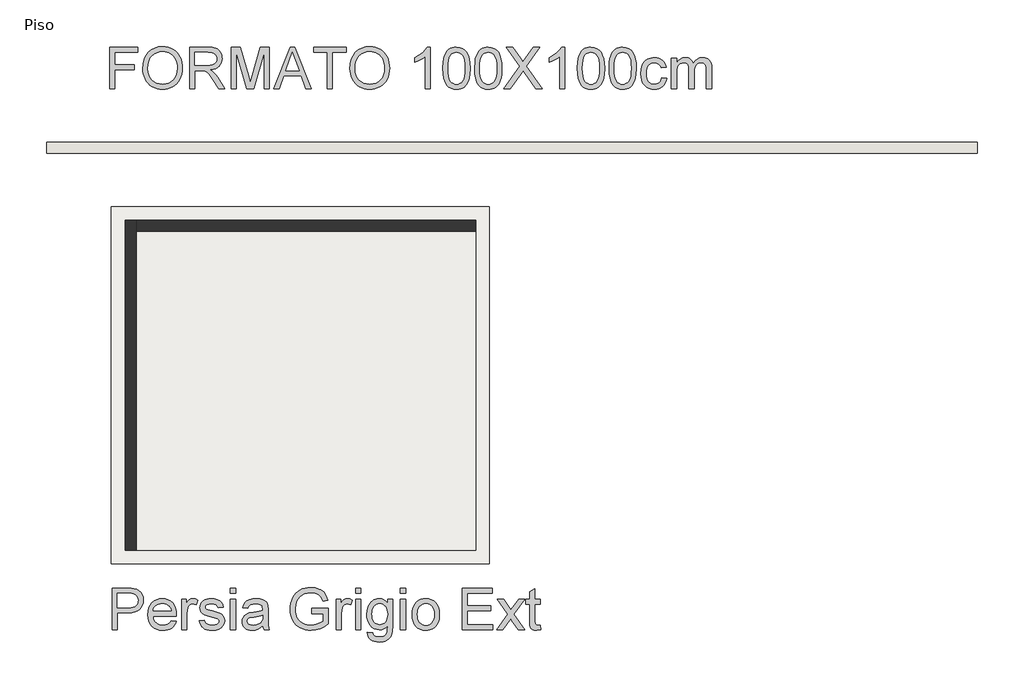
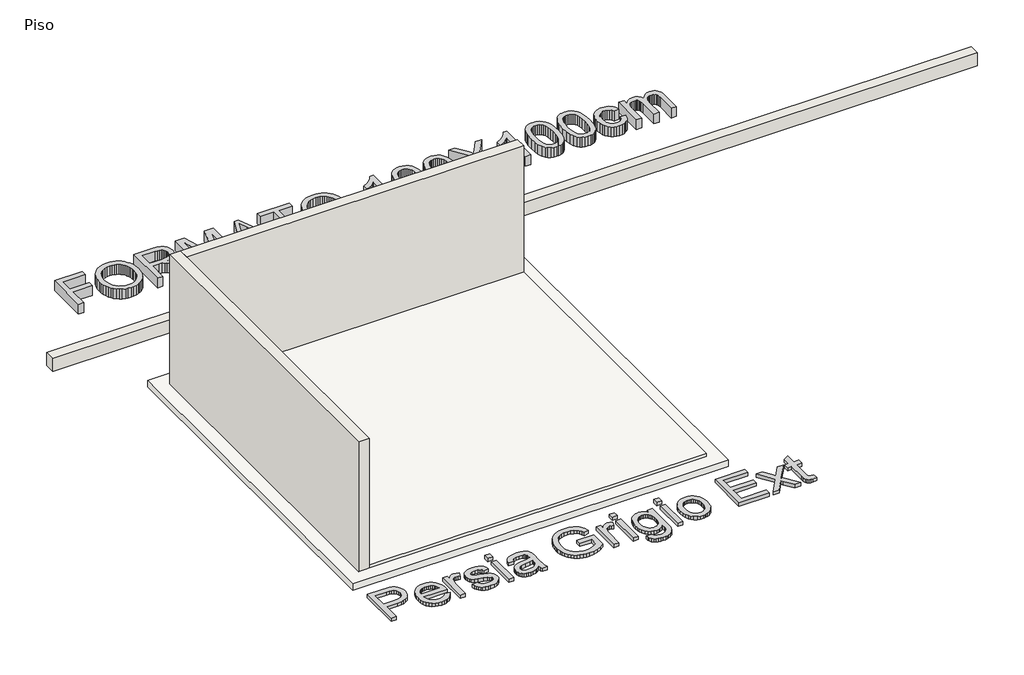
# One storey: 3 walls, 2 proxies, 2 slabs.
"""IFC4 building model written with IfcOpenShell, lengths in millimetres."""

from ifc_helpers import new_model, si_unit, frame, origin, origin_with_axes, place, context, project, spatial, polyline, outline, extrude, faceted_brep, element, save

model = new_model("IFC4")

# Units and contexts
model_context = context("Model", 3, world=origin())
ifc_project = project(units=[si_unit("LENGTHUNIT", "METRE", prefix="MILLI")], contexts=[model_context])

# Site, building, storey
site = spatial("IfcSite", under=ifc_project)
building = spatial("IfcBuilding", under=site)
storey = spatial("IfcBuildingStorey", under=building, Name="Piso", Elevation=0.0)

# Proxies
placement = place(None, origin())
element("IfcBuildingElementProxy", 1, Name="600mm Arial", ObjectType="600mm Arial", at=placement, inside=storey, context=model_context, shape_type="SweptSolid", body=[
    extrude(outline(polyline([(92602.0859381, 2702.6380465), (92602.0859381, 3305.3759074), (93007.0504384, 3305.3759074), (93007.0504384, 3230.0336748), (92677.4281707, 3230.0336748), (92677.4281707, 3051.0958724), (92959.961543, 3051.0958724), (92959.961543, 2975.7536397), (92677.4281707, 2975.7536397), (92677.4281707, 2702.6380465), (92602.0859381, 2702.6380465)])), origin_with_axes(), (0.0, 0.0, 1.0), 150.0),
    extrude(outline(polyline([(93082.392671, 2996.0607259), (93087.4142602, 3066.7584483), (93102.4790279, 3129.3443727), (93127.5869741, 3183.8184992), (93143.9071391, 3208.0136381), (93162.7380987, 3230.1808276), (93205.8262774, 3267.1989534), (93254.7453857, 3293.6404718), (93309.4954237, 3309.5053828), (93370.0763912, 3314.7936865), (93410.6261841, 3312.310483), (93449.134232, 3304.8608726), (93485.6005348, 3292.4448553), (93520.0250925, 3275.062431), (93551.4422148, 3253.2378317), (93578.8862117, 3227.495289), (93602.357083, 3197.8348032), (93621.8548287, 3164.2563741), (93637.1771138, 3127.5233569), (93648.1216032, 3088.3991067), (93654.6882968, 3046.8836235), (93656.8771947, 3002.9769074), (93654.5733337, 2958.4907771), (93647.6617507, 2916.4142739), (93636.1424457, 2876.7473978), (93620.0154187, 2839.4901487), (93599.6623474, 2805.6266111), (93575.4649091, 2776.1408692), (93547.423104, 2751.032923), (93515.5369321, 2730.3027726), (93481.0617906, 2714.0791766), (93445.2530769, 2702.4908937), (93408.110791, 2695.537924), (93369.6349328, 2693.2202674), (93328.3769671, 2695.7816458), (93289.3630815, 2703.465781), (93252.5932761, 2716.272673), (93218.0675508, 2734.2023217), (93186.6872166, 2756.56035), (93159.3535844, 2782.6523805), (93136.0666541, 2812.4784132), (93116.8264257, 2846.0384482), (93101.761658, 2881.9851177), (93091.0011097, 2918.9710538), (93084.5447807, 2956.9962565), (93082.392671, 2996.0607259)]), holes=[polyline([(93157.7349036, 2995.3249619), (93161.5010955, 2945.375784), (93172.7996713, 2901.0368065), (93191.6306309, 2862.3080295), (93217.9939744, 2829.1894529), (93250.0410947, 2802.665161), (93285.9233848, 2783.7192383), (93325.6408447, 2772.3516846), (93369.1934744, 2768.5625001), (93413.4910652, 2772.3884728), (93453.6775746, 2783.8663911), (93489.7530028, 2802.9962548), (93521.7173496, 2829.7780641), (93547.8875551, 2863.5956165), (93566.5805589, 2903.8327097), (93577.7963613, 2950.4893437), (93581.5349621, 3003.5655186), (93579.9346754, 3038.0452586), (93575.1338153, 3070.2625243), (93567.1323819, 3100.2173158), (93555.9303752, 3127.9096329), (93541.6519553, 3152.9761924), (93524.4212823, 3175.0537106), (93504.2383563, 3194.1421877), (93481.1031774, 3210.2416235), (93455.7331153, 3223.0209243), (93428.84554, 3232.1489963), (93400.4404514, 3237.6258395), (93370.5178496, 3239.4514539), (93328.4781346, 3235.9335823), (93289.4734461, 3225.3799676), (93253.503784, 3207.7906097), (93220.5691484, 3183.1655086), (93193.0791663, 3150.318245), (93173.4434648, 3108.0623993), (93161.6620439, 3056.3979716), (93157.7349036, 2995.3249619)])]), origin_with_axes(), (0.0, 0.0, 1.0), 150.0),
    extrude(outline(polyline([(93760.4727645, 2702.6380465), (93760.4727645, 3305.3759074), (94020.1974531, 3305.3759074), (94090.0030617, 3301.3108114), (94140.7891711, 3289.1155232), (94160.3880844, 3279.4218327), (94177.9084644, 3266.6011451), (94193.3503112, 3250.6534606), (94206.7136247, 3231.5787792), (94217.4971656, 3210.4025718), (94225.1996949, 3188.1503097), (94229.8212125, 3164.8219926), (94231.3617183, 3140.4176208), (94228.809537, 3109.4603509), (94221.152993, 3081.0414668), (94208.3920863, 3055.1609684), (94190.5268169, 3031.8188558), (94167.3272585, 3011.76009), (94138.563485, 2995.7296321), (94104.2354964, 2983.727482), (94064.3432925, 2975.7536397), (94089.1753272, 2959.5300438), (94107.1647568, 2943.527177), (94138.0300562, 2906.9229184), (94168.233168, 2865.9776524), (94268.738529, 2702.6380465), (94181.1826142, 2702.6380465), (94102.7501728, 2827.5707721), (94046.0963456, 2910.2706446), (94025.0351013, 2934.3853094), (94006.2915137, 2949.3397125), (93970.4598074, 2963.6871103), (93926.7554263, 2966.3358607), (93835.8149971, 2966.3358607), (93835.8149971, 2702.6380465), (93760.4727645, 2702.6380465)]), holes=[polyline([(93835.8149971, 3041.6780933), (94004.4521037, 3041.6780933), (94052.8837684, 3044.3452377), (94090.4629142, 3052.3466711), (94118.7530396, 3066.2158224), (94139.3176431, 3086.4861203), (94151.8440251, 3111.0054553), (94156.0194857, 3137.6217176), (94154.0283244, 3156.8895371), (94148.0548405, 3174.3731289), (94138.099034, 3190.0724931), (94124.1609049, 3203.9876296), (94105.9185565, 3215.3827744), (94083.050092, 3223.5221635), (94055.5555114, 3228.405797), (94023.4348147, 3230.0336748), (93835.8149971, 3230.0336748), (93835.8149971, 3041.6780933)])]), origin_with_axes(), (0.0, 0.0, 1.0), 150.0),
    extrude(outline(polyline([(94363.2106254, 2702.6380465), (94363.2106254, 3305.3759074), (94492.8522405, 3305.3759074), (94616.1662853, 2880.5457794), (94641.0351082, 2791.8126422), (94667.9640702, 2887.9034193), (94789.2179758, 3305.3759074), (94918.8595909, 3305.3759074), (94918.8595909, 2702.6380465), (94843.5173583, 2702.6380465), (94843.5173583, 3230.0336748), (94692.0971291, 2702.6380465), (94589.9730872, 2702.6380465), (94438.552858, 3230.0336748), (94438.552858, 2702.6380465), (94363.2106254, 2702.6380465)])), origin_with_axes(), (0.0, 0.0, 1.0), 150.0),
    extrude(outline(polyline([(94980.5166133, 2702.6380465), (95221.1114382, 3305.3759074), (95285.2700581, 3305.3759074), (95525.864883, 2702.6380465), (95446.2552192, 2702.6380465), (95377.2405569, 2890.9936281), (95128.9937866, 2890.9936281), (95060.1262771, 2702.6380465), (94980.5166133, 2702.6380465)]), holes=[polyline([(95156.6585126, 2966.3358607), (95349.7229837, 2966.3358607), (95295.4236012, 3114.5187283), (95253.1907481, 3230.0336748), (95215.6667846, 3127.4681746), (95156.6585126, 2966.3358607)])]), origin_with_axes(), (0.0, 0.0, 1.0), 150.0),
    extrude(outline(polyline([(95757.0419287, 2702.6380465), (95757.0419287, 3230.0336748), (95559.2685681, 3230.0336748), (95559.2685681, 3305.3759074), (96030.1575219, 3305.3759074), (96030.1575219, 3230.0336748), (95832.3841613, 3230.0336748), (95832.3841613, 2702.6380465), (95757.0419287, 2702.6380465)])), origin_with_axes(), (0.0, 0.0, 1.0), 150.0),
    extrude(outline(polyline([(96086.6641964, 2996.0607259), (96091.6857856, 3066.7584483), (96106.7505533, 3129.3443727), (96131.8584995, 3183.8184992), (96148.1786645, 3208.0136381), (96167.0096242, 3230.1808276), (96210.0978028, 3267.1989534), (96259.0169111, 3293.6404718), (96313.7669491, 3309.5053828), (96374.3479166, 3314.7936865), (96414.8977096, 3312.310483), (96453.4057574, 3304.8608726), (96489.8720602, 3292.4448553), (96524.2966179, 3275.062431), (96555.7137403, 3253.2378317), (96583.1577371, 3227.495289), (96606.6286084, 3197.8348032), (96626.1263541, 3164.2563741), (96641.4486392, 3127.5233569), (96652.3931286, 3088.3991067), (96658.9598222, 3046.8836235), (96661.1487201, 3002.9769074), (96658.8448591, 2958.4907771), (96651.9332761, 2916.4142739), (96640.4139711, 2876.7473978), (96624.2869442, 2839.4901487), (96603.9338728, 2805.6266111), (96579.7364345, 2776.1408692), (96551.6946295, 2751.032923), (96519.8084575, 2730.3027726), (96485.3333161, 2714.0791766), (96449.5246024, 2702.4908937), (96412.3823164, 2695.537924), (96373.9064582, 2693.2202674), (96332.6484925, 2695.7816458), (96293.6346069, 2703.465781), (96256.8648015, 2716.272673), (96222.3390762, 2734.2023217), (96190.958742, 2756.56035), (96163.6251098, 2782.6523805), (96140.3381795, 2812.4784132), (96121.0979512, 2846.0384482), (96106.0331835, 2881.9851177), (96095.2726351, 2918.9710538), (96088.8163061, 2956.9962565), (96086.6641964, 2996.0607259)]), holes=[polyline([(96162.006429, 2995.3249619), (96165.7726209, 2945.375784), (96177.0711967, 2901.0368065), (96195.9021564, 2862.3080295), (96222.2654998, 2829.1894529), (96254.3126201, 2802.665161), (96290.1949102, 2783.7192383), (96329.9123701, 2772.3516846), (96373.4649998, 2768.5625001), (96417.7625906, 2772.3884728), (96457.9491, 2783.8663911), (96494.0245282, 2802.9962548), (96525.988875, 2829.7780641), (96552.1590805, 2863.5956165), (96570.8520844, 2903.8327097), (96582.0678867, 2950.4893437), (96585.8064875, 3003.5655186), (96584.2062008, 3038.0452586), (96579.4053407, 3070.2625243), (96571.4039074, 3100.2173158), (96560.2019006, 3127.9096329), (96545.9234807, 3152.9761924), (96528.6928077, 3175.0537106), (96508.5098818, 3194.1421877), (96485.3747028, 3210.2416235), (96460.0046407, 3223.0209243), (96433.1170654, 3232.1489963), (96404.7119768, 3237.6258395), (96374.789375, 3239.4514539), (96332.74966, 3235.9335823), (96293.7449715, 3225.3799676), (96257.7753094, 3207.7906097), (96224.8406738, 3183.1655086), (96197.3506917, 3150.318245), (96177.7149902, 3108.0623993), (96165.9335693, 3056.3979716), (96162.006429, 2995.3249619)])]), origin_with_axes(), (0.0, 0.0, 1.0), 150.0),
    extrude(outline(polyline([(97254.4688019, 2702.6380465), (97179.1265693, 2702.6380465), (97179.1265693, 3172.349778), (97147.6726587, 3146.910738), (97107.7574622, 3121.5084862), (97065.855703, 3099.3068078), (97028.4421041, 3083.4694879), (97028.4421041, 3154.6914422), (97087.615923, 3186.8811168), (97138.880279, 3225.1776325), (97179.2921162, 3265.9021693), (97205.9083785, 3305.3759074), (97254.4688019, 3305.3759074), (97254.4688019, 2702.6380465)])), origin_with_axes(), (0.0, 0.0, 1.0), 150.0),
    extrude(outline(polyline([(97433.4066044, 2999.1509346), (97438.9432284, 3095.6279879), (97445.8640084, 3136.5410643), (97455.5531005, 3172.5705072), (97467.9691178, 3204.0106222), (97483.0706737, 3231.1557149), (97500.8577682, 3254.0057853), (97521.3304012, 3272.5608335), (97544.5575507, 3286.9174283), (97570.6081945, 3297.1721389), (97599.4823325, 3303.3249653), (97631.179965, 3305.3759074), (97677.6066727, 3300.5198651), (97719.1773382, 3285.9517381), (97753.9421867, 3262.2417435), (97779.9514438, 3229.9600984), (97799.5963424, 3189.3827143), (97815.2681153, 3140.7855028), (97825.532023, 3079.0732981), (97828.9533256, 2999.1509346), (97823.4718838, 2903.2257044), (97816.6200817, 2862.4505838), (97807.0275587, 2826.4671261), (97794.7081103, 2795.0132155), (97779.6755323, 2767.8267361), (97761.9298246, 2744.9076878), (97741.4709871, 2726.2560706), (97718.2162465, 2711.8029067), (97692.0828293, 2701.4792182), (97663.0707354, 2695.2850051), (97631.179965, 2693.2202674), (97589.6828759, 2696.8071169), (97552.8946764, 2707.5676653), (97520.8153664, 2725.5019125), (97493.444946, 2750.6098587), (97467.1781715, 2795.9972999), (97448.4161898, 2852.5499596), (97437.1590007, 2920.2678378), (97433.4066044, 2999.1509346)]), holes=[polyline([(97508.748837, 2999.2980874), (97510.9561289, 2933.8012967), (97517.5780048, 2880.7849027), (97528.6144647, 2840.2489053), (97544.0655085, 2812.1933047), (97562.7539139, 2793.1048277), (97583.5024584, 2779.4702012), (97606.3111421, 2771.2894254), (97631.179965, 2768.5625001), (97656.0487878, 2771.2986224), (97678.8574715, 2779.5069894), (97699.6060161, 2793.1876011), (97718.2944214, 2812.3404575), (97733.7454652, 2840.4420434), (97744.7819251, 2880.9688437), (97751.403801, 2933.9208584), (97753.611093, 2999.2980874), (97751.4773774, 3063.0612342), (97745.0762307, 3115.1441277), (97734.4076528, 3155.5467678), (97719.4716438, 3184.2691546), (97701.0959381, 3204.2911322), (97680.1082703, 3218.5925448), (97656.5086403, 3227.1733923), (97630.2970482, 3230.0336748), (97605.556984, 3227.5136831), (97583.1345764, 3219.9537081), (97563.0298254, 3207.3537498), (97545.2427309, 3189.7138081), (97529.2766523, 3158.4438385), (97517.8723104, 3116.2845619), (97511.0297053, 3063.2359782), (97508.748837, 2999.2980874)])]), origin_with_axes(), (0.0, 0.0, 1.0), 150.0),
    extrude(outline(polyline([(97894.8777791, 2999.1509346), (97900.4144031, 3095.6279879), (97907.3351832, 3136.5410643), (97917.0242752, 3172.5705072), (97929.4402925, 3204.0106222), (97944.5418484, 3231.1557149), (97962.3289429, 3254.0057853), (97982.8015759, 3272.5608335), (98006.0287254, 3286.9174283), (98032.0793692, 3297.1721389), (98060.9535073, 3303.3249653), (98092.6511397, 3305.3759074), (98139.0778475, 3300.5198651), (98180.648513, 3285.9517381), (98215.4133615, 3262.2417435), (98241.4226186, 3229.9600984), (98261.0675171, 3189.3827143), (98276.7392901, 3140.7855028), (98287.0031978, 3079.0732981), (98290.4245003, 2999.1509346), (98284.9430586, 2903.2257044), (98278.0912564, 2862.4505838), (98268.4987334, 2826.4671261), (98256.1792851, 2795.0132155), (98241.1467071, 2767.8267361), (98223.4009993, 2744.9076878), (98202.9421619, 2726.2560706), (98179.6874212, 2711.8029067), (98153.554004, 2701.4792182), (98124.5419102, 2695.2850051), (98092.6511397, 2693.2202674), (98051.1540507, 2696.8071169), (98014.3658511, 2707.5676653), (97982.2865412, 2725.5019125), (97954.9161207, 2750.6098587), (97928.6493463, 2795.9972999), (97909.8873645, 2852.5499596), (97898.6301755, 2920.2678378), (97894.8777791, 2999.1509346)]), holes=[polyline([(97970.2200117, 2999.2980874), (97972.4273037, 2933.8012967), (97979.0491796, 2880.7849027), (97990.0856395, 2840.2489053), (98005.5366833, 2812.1933047), (98024.2250886, 2793.1048277), (98044.9736331, 2779.4702012), (98067.7823168, 2771.2894254), (98092.6511397, 2768.5625001), (98117.5199626, 2771.2986224), (98140.3286463, 2779.5069894), (98161.0771908, 2793.1876011), (98179.7655962, 2812.3404575), (98195.21664, 2840.4420434), (98206.2530998, 2880.9688437), (98212.8749757, 2933.9208584), (98215.0822677, 2999.2980874), (98212.9485521, 3063.0612342), (98206.5474054, 3115.1441277), (98195.8788276, 3155.5467678), (98180.9428186, 3184.2691546), (98162.5671129, 3204.2911322), (98141.5794451, 3218.5925448), (98117.9798151, 3227.1733923), (98091.7682229, 3230.0336748), (98067.0281587, 3227.5136831), (98044.6057511, 3219.9537081), (98024.5010001, 3207.3537498), (98006.7139056, 3189.7138081), (97990.747827, 3158.4438385), (97979.3434852, 3116.2845619), (97972.5008801, 3063.2359782), (97970.2200117, 2999.2980874)])]), origin_with_axes(), (0.0, 0.0, 1.0), 150.0),
    extrude(outline(polyline([(98318.6778375, 2702.6380465), (98551.0321057, 3031.0830918), (98356.3489539, 3305.3759074), (98446.7007719, 3305.3759074), (98556.3296064, 3151.0126222), (98582.4860163, 3111.9067662), (98593.2649587, 3090.8271278), (98636.5278814, 3152.0426918), (98744.9794936, 3305.3759074), (98836.6556868, 3305.3759074), (98641.9725349, 3030.200175), (98874.3268031, 2702.6380465), (98783.974985, 2702.6380465), (98629.1702415, 2921.0127989), (98596.9437787, 2966.3358607), (98561.4799544, 2916.5982149), (98410.3540307, 2702.6380465), (98318.6778375, 2702.6380465)])), origin_with_axes(), (0.0, 0.0, 1.0), 150.0),
    extrude(outline(polyline([(99203.9490707, 2702.6380465), (99128.6068381, 2702.6380465), (99128.6068381, 3172.349778), (99097.1529275, 3146.910738), (99057.2377311, 3121.5084862), (99015.3359718, 3099.3068078), (98977.9223729, 3083.4694879), (98977.9223729, 3154.6914422), (99037.0961918, 3186.8811168), (99088.3605479, 3225.1776325), (99128.772385, 3265.9021693), (99155.3886474, 3305.3759074), (99203.9490707, 3305.3759074), (99203.9490707, 2702.6380465)])), origin_with_axes(), (0.0, 0.0, 1.0), 150.0),
    extrude(outline(polyline([(99382.8868732, 2999.1509346), (99388.4234972, 3095.6279879), (99395.3442773, 3136.5410643), (99405.0333693, 3172.5705072), (99417.4493866, 3204.0106222), (99432.5509425, 3231.1557149), (99450.338037, 3254.0057853), (99470.81067, 3272.5608335), (99494.0378195, 3286.9174283), (99520.0884633, 3297.1721389), (99548.9626014, 3303.3249653), (99580.6602338, 3305.3759074), (99627.0869416, 3300.5198651), (99668.657607, 3285.9517381), (99703.4224556, 3262.2417435), (99729.4317126, 3229.9600984), (99749.0766112, 3189.3827143), (99764.7483842, 3140.7855028), (99775.0122919, 3079.0732981), (99778.4335944, 2999.1509346), (99772.9521527, 2903.2257044), (99766.1003505, 2862.4505838), (99756.5078275, 2826.4671261), (99744.1883792, 2795.0132155), (99729.1558012, 2767.8267361), (99711.4100934, 2744.9076878), (99690.951256, 2726.2560706), (99667.6965153, 2711.8029067), (99641.5630981, 2701.4792182), (99612.5510043, 2695.2850051), (99580.6602338, 2693.2202674), (99539.1631447, 2696.8071169), (99502.3749452, 2707.5676653), (99470.2956352, 2725.5019125), (99442.9252148, 2750.6098587), (99416.6584403, 2795.9972999), (99397.8964586, 2852.5499596), (99386.6392695, 2920.2678378), (99382.8868732, 2999.1509346)]), holes=[polyline([(99458.2291058, 2999.2980874), (99460.4363978, 2933.8012967), (99467.0582737, 2880.7849027), (99478.0947335, 2840.2489053), (99493.5457773, 2812.1933047), (99512.2341827, 2793.1048277), (99532.9827272, 2779.4702012), (99555.7914109, 2771.2894254), (99580.6602338, 2768.5625001), (99605.5290567, 2771.2986224), (99628.3377404, 2779.5069894), (99649.0862849, 2793.1876011), (99667.7746903, 2812.3404575), (99683.2257341, 2840.4420434), (99694.2621939, 2880.9688437), (99700.8840698, 2933.9208584), (99703.0913618, 2999.2980874), (99700.9576462, 3063.0612342), (99694.5564995, 3115.1441277), (99683.8879216, 3155.5467678), (99668.9519126, 3184.2691546), (99650.576207, 3204.2911322), (99629.5885392, 3218.5925448), (99605.9889092, 3227.1733923), (99579.777317, 3230.0336748), (99555.0372528, 3227.5136831), (99532.6148452, 3219.9537081), (99512.5100942, 3207.3537498), (99494.7229997, 3189.7138081), (99478.7569211, 3158.4438385), (99467.3525793, 3116.2845619), (99460.5099742, 3063.2359782), (99458.2291058, 2999.2980874)])]), origin_with_axes(), (0.0, 0.0, 1.0), 150.0),
    extrude(outline(polyline([(99844.3580479, 2999.1509346), (99849.894672, 3095.6279879), (99856.815452, 3136.5410643), (99866.5045441, 3172.5705072), (99878.9205614, 3204.0106222), (99894.0221173, 3231.1557149), (99911.8092118, 3254.0057853), (99932.2818448, 3272.5608335), (99955.5089943, 3286.9174283), (99981.559638, 3297.1721389), (100010.4337761, 3303.3249653), (100042.1314085, 3305.3759074), (100088.5581163, 3300.5198651), (100130.1287818, 3285.9517381), (100164.8936303, 3262.2417435), (100190.9028874, 3229.9600984), (100210.5477859, 3189.3827143), (100226.2195589, 3140.7855028), (100236.4834666, 3079.0732981), (100239.9047692, 2999.1509346), (100234.4233274, 2903.2257044), (100227.5715253, 2862.4505838), (100217.9790022, 2826.4671261), (100205.6595539, 2795.0132155), (100190.6269759, 2767.8267361), (100172.8812682, 2744.9076878), (100152.4224307, 2726.2560706), (100129.1676901, 2711.8029067), (100103.0342729, 2701.4792182), (100074.022179, 2695.2850051), (100042.1314085, 2693.2202674), (100000.6343195, 2696.8071169), (99963.84612, 2707.5676653), (99931.76681, 2725.5019125), (99904.3963896, 2750.6098587), (99878.1296151, 2795.9972999), (99859.3676333, 2852.5499596), (99848.1104443, 2920.2678378), (99844.3580479, 2999.1509346)]), holes=[polyline([(99919.7002806, 2999.2980874), (99921.9075725, 2933.8012967), (99928.5294484, 2880.7849027), (99939.5659083, 2840.2489053), (99955.0169521, 2812.1933047), (99973.7053574, 2793.1048277), (99994.453902, 2779.4702012), (100017.2625857, 2771.2894254), (100042.1314085, 2768.5625001), (100067.0002314, 2771.2986224), (100089.8089151, 2779.5069894), (100110.5574597, 2793.1876011), (100129.245865, 2812.3404575), (100144.6969088, 2840.4420434), (100155.7333687, 2880.9688437), (100162.3552446, 2933.9208584), (100164.5625365, 2999.2980874), (100162.428821, 3063.0612342), (100156.0276743, 3115.1441277), (100145.3590964, 3155.5467678), (100130.4230874, 3184.2691546), (100112.0473817, 3204.2911322), (100091.0597139, 3218.5925448), (100067.4600839, 3227.1733923), (100041.2484918, 3230.0336748), (100016.5084276, 3227.5136831), (99994.08602, 3219.9537081), (99973.9812689, 3207.3537498), (99956.1941745, 3189.7138081), (99940.2280959, 3158.4438385), (99928.823754, 3116.2845619), (99921.9811489, 3063.2359782), (99919.7002806, 2999.2980874)])]), origin_with_axes(), (0.0, 0.0, 1.0), 150.0),
    extrude(outline(polyline([(100607.1981531, 2862.7402908), (100682.5403858, 2853.3225117), (100674.3458143, 2817.7713154), (100661.5343238, 2786.3128063), (100644.1059143, 2758.9469844), (100622.0605857, 2735.6738497), (100596.3272402, 2717.1004075), (100567.8347797, 2703.833663), (100536.5832042, 2695.8736163), (100502.5725137, 2693.2202674), (100460.316668, 2696.92208), (100422.4294211, 2708.0275178), (100388.9107728, 2726.5365806), (100359.7607232, 2752.4492687), (100336.1656917, 2785.2781382), (100319.3120978, 2824.5357456), (100309.1999415, 2870.2220909), (100305.8292227, 2922.337174), (100311.5865759, 2989.3836677), (100318.7832674, 3019.5545898), (100328.8586356, 3047.4906288), (100341.8816582, 3072.6307646), (100357.9213132, 3094.4139773), (100376.9776006, 3112.8402667), (100399.0505203, 3127.9096329), (100423.1421924, 3139.6266745), (100448.2547371, 3147.9959899), (100474.3881544, 3153.0175791), (100501.5424441, 3154.6914422), (100534.9691219, 3152.3921797), (100565.2044234, 3145.4943923), (100592.2483486, 3133.99808), (100616.1008974, 3117.9032427), (100636.3573998, 3097.5777624), (100652.6131854, 3073.3895213), (100664.8682544, 3045.3385191), (100673.1226067, 3013.4247561), (100597.7803741, 3004.006977), (100584.1135579, 3036.8772332), (100562.8315845, 3060.440075), (100535.1116762, 3074.6219259), (100502.1310553, 3079.3492096), (100476.531067, 3077.022356), (100453.4418733, 3070.0417951), (100432.8634742, 3058.407527), (100414.7958697, 3042.1195517), (100400.0851884, 3020.8007901), (100389.5775589, 2994.0741631), (100383.2729812, 2961.9396708), (100381.1714553, 2924.3973132), (100383.226996, 2886.289337), (100389.3936179, 2853.7823642), (100399.6713211, 2826.8763948), (100414.0601057, 2805.5714288), (100431.7690252, 2789.3800225), (100452.0071335, 2777.8147322), (100474.7744305, 2770.8755581), (100500.0709161, 2768.5625001), (100539.0848017, 2774.3382474), (100555.9567897, 2781.5579315), (100571.0721412, 2791.6654894), (100584.0077919, 2804.7712854), (100594.3406774, 2820.9856844), (100602.0707978, 2840.3086862), (100607.1981531, 2862.7402908)])), origin_with_axes(), (0.0, 0.0, 1.0), 150.0),
    extrude(outline(polyline([(100748.4648393, 2702.6380465), (100748.4648393, 3145.2736631), (100823.8070719, 3145.2736631), (100823.8070719, 3072.4330281), (100846.4686028, 3105.8918955), (100875.6048568, 3132.1034877), (100910.2225526, 3149.0444536), (100949.3284087, 3154.6914422), (100991.2301679, 3148.934089), (101009.0632476, 3141.7373974), (101024.8177941, 3131.6620293), (101049.9073461, 3104.0156974), (101066.3148831, 3067.1355273), (101093.7772741, 3105.4412401), (101125.102426, 3132.8024635), (101160.2903388, 3149.2191975), (101199.3410126, 3154.6914422), (101229.5027377, 3152.4151724), (101255.9764457, 3145.5863628), (101278.7621368, 3134.2050136), (101297.8598109, 3118.2711247), (101312.9567683, 3097.6007551), (101323.7403092, 3072.0099638), (101330.2104338, 3041.4987508), (101332.367142, 3006.0671161), (101332.367142, 2702.6380465), (101257.0249094, 2702.6380465), (101257.0249094, 2973.6935006), (101255.2774699, 3011.2726464), (101250.0351515, 3036.6013217), (101240.2127022, 3053.9469578), (101224.7248702, 3067.5769857), (101204.8040602, 3076.4061536), (101181.6826768, 3079.3492096), (101160.3317255, 3077.4638144), (101140.8661694, 3071.8076287), (101123.2860086, 3062.3806526), (101107.591243, 3049.182886), (101094.6831835, 3031.8280529), (101085.463141, 3009.9298771), (101079.9311155, 2983.4883587), (101078.087107, 2952.5034976), (101078.087107, 2702.6380465), (101002.7448744, 2702.6380465), (101002.7448744, 2982.0812101), (100998.3854727, 3024.6819451), (100992.9362207, 3041.4021818), (100985.3072678, 3055.0689979), (100975.1951114, 3065.6915905), (100962.296249, 3073.2791567), (100946.6106804, 3077.8316964), (100928.1384057, 3079.3492096), (100899.1125163, 3075.3025076), (100872.3674953, 3063.1624018), (100850.2945756, 3043.2231977), (100835.2849902, 3015.7792008), (100826.6765515, 2977.7034143), (100823.8070719, 2925.8688412), (100823.8070719, 2702.6380465), (100748.4648393, 2702.6380465)])), origin_with_axes(), (0.0, 0.0, 1.0), 150.0),
])
element("IfcBuildingElementProxy", 2, Name="600mm Arial", ObjectType="600mm Arial", at=placement, inside=storey, context=model_context, shape_type="SweptSolid", body=[
    extrude(outline(polyline([(92638.184316, -5142.8132373), (92638.184316, -4540.0753764), (92861.5622634, -4540.0753764), (92913.5807776, -4541.5101161), (92951.6197759, -4545.8143355), (92991.7740956, -4556.5380956), (93024.8282929, -4573.9940963), (93051.4445552, -4598.9732838), (93072.2850703, -4632.2666044), (93085.7495513, -4671.5380073), (93090.2377116, -4714.4514421), (93087.2072837, -4751.4511737), (93078.1159999, -4785.4894553), (93062.9638602, -4816.5662869), (93041.7508647, -4844.6816684), (93012.6284062, -4867.9869928), (92973.7478779, -4884.633653), (92925.1092796, -4894.6216492), (92866.7126114, -4897.9509813), (92713.5265486, -4897.9509813), (92713.5265486, -5142.8132373), (92638.184316, -5142.8132373)]), holes=[polyline([(92713.5265486, -4822.6087487), (92871.1271953, -4822.6087487), (92907.3635718, -4820.8797033), (92937.9345656, -4815.6925671), (92962.8401767, -4807.0473403), (92982.0804051, -4794.9440226), (92996.4369999, -4779.704511), (93006.6917105, -4761.6507021), (93012.8445369, -4740.7825959), (93014.895479, -4717.1001924), (93010.0578308, -4683.2550489), (92995.5448861, -4654.7074061), (92973.1592667, -4633.2230975), (92944.7035943, -4620.5679569), (92915.6409167, -4616.705196), (92869.3613617, -4615.417609), (92713.5265486, -4615.417609), (92713.5265486, -4822.6087487)])]), origin_with_axes(), (0.0, 0.0, 1.0), 50.0),
    extrude(outline(polyline([(93494.3192951, -5010.9643302), (93568.1899998, -5020.3821093), (93556.8638328, -5049.9690187), (93541.5737374, -5076.0426551), (93522.3197135, -5098.6030185), (93499.1017611, -5117.6501088), (93472.1590035, -5132.7792558), (93441.7305639, -5143.5857894), (93407.8164425, -5150.0697096), (93370.4166392, -5152.2310163), (93323.6680346, -5148.5016126), (93282.0145957, -5137.3134014), (93245.4563224, -5118.6663828), (93213.9932148, -5092.5605567), (93188.6921306, -5059.7224901), (93170.6199276, -5020.87875), (93159.7766058, -4976.0293362), (93156.1621652, -4925.1742489), (93159.813394, -4872.5947147), (93170.7670804, -4826.2507804), (93189.0232244, -4786.1424459), (93214.581826, -4752.2697112), (93245.9621602, -4725.3591432), (93281.6835019, -4706.137309), (93321.7458512, -4694.6042084), (93366.149208, -4690.7598416), (93409.1224236, -4694.5950114), (93447.9845578, -4706.1005208), (93482.7356108, -4725.2763698), (93513.3755825, -4752.1225584), (93538.3869596, -4785.9217167), (93556.252229, -4825.9564748), (93566.9713907, -4872.2268328), (93570.5444445, -4924.7327905), (93570.1029861, -4945.0398766), (93231.5043978, -4945.0398766), (93235.868398, -4975.1050327), (93244.5458145, -5001.4361865), (93257.5366475, -5024.0333381), (93274.8408968, -5042.8964874), (93295.5020694, -5057.768117), (93318.5636719, -5068.3907096), (93344.0257045, -5074.7642652), (93371.8881671, -5076.8887837), (93411.9873046, -5072.9524464), (93445.7588718, -5061.1434343), (93473.2028686, -5040.7259836), (93494.3192951, -5010.9643302)]), holes=[polyline([(93231.5043978, -4869.697644), (93495.2022119, -4869.697644), (93485.0118807, -4829.8928122), (93476.2470921, -4814.2394333), (93465.0358883, -4801.4187457), (93444.4896789, -4785.9677019), (93421.1107781, -4774.9312421), (93394.8991859, -4768.3093662), (93365.8549024, -4766.1020742), (93339.3628002, -4767.8633092), (93315.068793, -4773.1470144), (93292.9728807, -4781.9531897), (93273.0750632, -4794.281835), (93256.3778192, -4809.5627334), (93243.8836269, -4827.2256677), (93235.5924865, -4847.2706379), (93231.5043978, -4869.697644)])]), origin_with_axes(), (0.0, 0.0, 1.0), 50.0),
    extrude(outline(polyline([(93645.8866771, -5142.8132373), (93645.8866771, -4700.1776207), (93711.8111307, -4700.1776207), (93711.8111307, -4765.6606158), (93736.1649188, -4727.6951939), (93758.6057205, -4705.3279686), (93781.1200986, -4694.4018733), (93805.6946159, -4690.7598416), (93843.2185794, -4696.5723771), (93881.3311541, -4714.0099837), (93856.1680256, -4781.553118), (93829.6805219, -4769.9648351), (93803.1930183, -4766.1020742), (93780.6970343, -4769.8176823), (93760.5922832, -4780.9645068), (93744.3502932, -4798.696419), (93733.442592, -4822.1672903), (93724.2823303, -4864.2529905), (93721.2289098, -4910.1646635), (93721.2289098, -5142.8132373), (93645.8866771, -5142.8132373)])), origin_with_axes(), (0.0, 0.0, 1.0), 50.0),
    extrude(outline(polyline([(93900.1667122, -5010.9643302), (93975.5089448, -5001.5465511), (93980.0614845, -5018.7266403), (93987.3915333, -5033.7730139), (93997.4990911, -5046.6856719), (94010.384158, -5057.4646144), (94026.0835221, -5065.9626885), (94044.6339717, -5072.0327414), (94090.2881273, -5076.8887837), (94135.3904599, -5072.4374116), (94152.920037, -5066.8731964), (94167.1018879, -5059.0832952), (94185.8638697, -5039.7327022), (94190.5543651, -5028.8985775), (94192.1178636, -5017.2919005), (94190.5451681, -5007.1199633), (94185.8270815, -4998.0884604), (94166.9547351, -4983.4467569), (94138.7381861, -4973.8818251), (94089.4052105, -4961.9624484), (94020.6480656, -4942.0784266), (93975.9504032, -4925.1006725), (93947.2372135, -4906.5778141), (93926.4334867, -4882.0584791), (93913.7967401, -4853.1061661), (93909.5844913, -4821.2843735), (93912.9690056, -4792.0929372), (93923.1225487, -4765.145581), (93939.1254155, -4741.5091628), (93960.057901, -4722.2505404), (93980.8616279, -4710.1288286), (94007.9561368, -4699.9568915), (94039.2812887, -4693.0591041), (94072.7769444, -4690.7598416), (94121.8156143, -4694.4570556), (94164.4531376, -4705.5486978), (94198.7397395, -4722.9495162), (94222.7256456, -4745.5742589), (94238.6181478, -4775.096789), (94248.624538, -4813.1909696), (94173.2823054, -4822.6087487), (94163.7725559, -4798.8987541), (94144.9553918, -4781.0380832), (94116.6468723, -4769.8360764), (94078.6630563, -4766.1020742), (94035.4001336, -4769.6705295), (94006.5581852, -4780.3758956), (93990.3345892, -4795.8269394), (93984.9267239, -4813.632428), (93987.1708041, -4825.2207108), (93993.9030446, -4835.5581949), (94005.417751, -4844.792033), (94022.009229, -4852.1864611), (94086.903613, -4868.2261161), (94197.4889407, -4903.6899404), (94226.6987711, -4920.6493004), (94248.8452672, -4943.8626543), (94262.806389, -4973.4035785), (94267.4600962, -5009.3456494), (94261.9970486, -5046.5017309), (94245.6079057, -5081.4505205), (94218.9180669, -5111.4512972), (94182.5529317, -5133.7633402), (94138.6278215, -5147.6140973), (94089.2580577, -5152.2310163), (94048.7082648, -5150.0053303), (94013.2904257, -5143.328272), (93983.0045405, -5132.1998417), (93957.8506091, -5116.6200392), (93937.3043996, -5096.662441), (93920.8416803, -5072.4006234), (93908.4624512, -5043.8345865), (93900.1667122, -5010.9643302)])), origin_with_axes(), (0.0, 0.0, 1.0), 50.0),
    extrude(outline(polyline([(94352.2201079, -4615.417609), (94352.2201079, -4540.0753764), (94427.5623405, -4540.0753764), (94427.5623405, -4615.417609), (94352.2201079, -4615.417609)])), origin_with_axes(), (0.0, 0.0, 1.0), 50.0),
    extrude(outline(polyline([(94352.2201079, -5142.8132373), (94352.2201079, -4700.1776207), (94427.5623405, -4700.1776207), (94427.5623405, -5142.8132373), (94352.2201079, -5142.8132373)])), origin_with_axes(), (0.0, 0.0, 1.0), 50.0),
    extrude(outline(polyline([(94823.1090617, -5086.3065628), (94787.1118085, -5117.1718622), (94750.0476975, -5137.3685837), (94711.0706001, -5148.5154082), (94669.3343877, -5152.2310163), (94635.7881483, -5149.9961332), (94606.3713843, -5143.2914839), (94581.0840956, -5132.1170682), (94559.9262824, -5116.4728864), (94543.2198413, -5097.3522197), (94531.286669, -5075.7483495), (94524.1267657, -5051.6612759), (94521.7401313, -5025.0909988), (94525.3453748, -4993.8578174), (94536.1611055, -4965.4941156), (94552.844554, -4941.2139039), (94574.052951, -4922.2311929), (94598.9769562, -4907.8837951), (94626.8072291, -4897.5095229), (94691.9959186, -4886.1787574), (94769.0304084, -4874.2593808), (94822.6676033, -4860.279865), (94823.1090617, -4843.504446), (94817.9219256, -4809.8800316), (94811.4380054, -4797.4272261), (94802.3605172, -4787.8806883), (94786.6703501, -4778.3525446), (94767.5588804, -4771.5467277), (94719.0720335, -4766.1020742), (94674.1904301, -4769.7257118), (94642.8468841, -4780.5966248), (94621.4729402, -4800.7013758), (94606.500143, -4832.0265277), (94531.1579103, -4822.6087487), (94544.2361153, -4781.4059652), (94563.7522551, -4749.0323496), (94591.5273458, -4724.2738913), (94629.3824031, -4705.9165798), (94675.6803521, -4694.5490261), (94728.7841182, -4690.7598416), (94779.7173804, -4694.1075677), (94820.0924294, -4704.1507462), (94850.5346645, -4719.2523021), (94871.6694851, -4737.7751606), (94885.6857891, -4760.6758148), (94894.7724744, -4788.9107579), (94898.4512943, -4854.8352114), (94898.4512943, -4948.5715438), (94902.2772671, -5079.4639577), (94907.9426498, -5111.8191792), (94917.2868525, -5142.8132373), (94841.9446199, -5142.8132373), (94829.8780904, -5116.6200392), (94823.1090617, -5086.3065628)]), holes=[polyline([(94823.1090617, -4935.6220976), (94772.4884992, -4948.1668736), (94701.5608505, -4958.7250869), (94636.740043, -4970.9387691), (94619.8726535, -4979.2896904), (94607.3830597, -4990.8043968), (94599.6575378, -5004.5999717), (94597.0823639, -5019.7934981), (94602.6925643, -5042.1975116), (94619.5231656, -5060.5548231), (94647.2062857, -5072.8052936), (94685.3740427, -5076.8887837), (94725.8410622, -5072.3822293), (94761.5991921, -5058.862566), (94790.5882933, -5038.9417559), (94810.7482267, -5015.2317613), (94819.6877592, -4990.8043968), (94822.6676033, -4956.9592533), (94823.1090617, -4935.6220976)])]), origin_with_axes(), (0.0, 0.0, 1.0), 50.0),
    extrude(outline(polyline([(95529.4424925, -4907.3687603), (95529.4424925, -4832.0265277), (95774.3047484, -4832.0265277), (95774.3047484, -5057.3174616), (95714.7998357, -5098.704186), (95653.4187248, -5128.392263), (95590.3085686, -5146.271328), (95525.6165197, -5152.2310163), (95482.3398015, -5149.862776), (95441.0956313, -5142.758055), (95401.8840092, -5130.9168532), (95364.704935, -5114.3391708), (95330.7586239, -5093.2733281), (95301.2452908, -5067.9676453), (95276.1649358, -5038.4221226), (95255.5175588, -5004.6367599), (95239.3905319, -4967.6922105), (95227.8712269, -4928.6691279), (95220.9596439, -4887.567512), (95218.6557829, -4844.3873628), (95220.9504469, -4801.2026151), (95227.8344387, -4759.4985924), (95239.3077584, -4719.2752947), (95255.370406, -4680.5327221), (95275.737273, -4644.9723288), (95300.1232508, -4614.2955689), (95328.5283393, -4588.5024425), (95360.9525387, -4567.5929496), (95396.6922745, -4551.433733), (95435.0439725, -4539.8914354), (95476.0076327, -4532.9660568), (95519.583255, -4530.6575973), (95581.6449476, -4536.0102803), (95637.4526462, -4552.0683294), (95662.3720529, -4563.8221591), (95684.4495711, -4577.6729163), (95703.6852009, -4593.6206008), (95720.0789424, -4611.6652126), (95746.4376873, -4655.6822933), (95765.6227334, -4711.3612333), (95696.1666127, -4730.9325555), (95680.6603866, -4691.2196941), (95661.8064343, -4661.2557056), (95636.864035, -4638.6677511), (95603.0924679, -4621.0829917), (95562.8277835, -4609.7706203), (95518.4060326, -4605.9998299), (95466.4059126, -4610.0649259), (95421.9473735, -4622.2602141), (95385.1959621, -4641.058984), (95356.3172255, -4664.9345255), (95334.1523353, -4692.6544339), (95317.5424632, -4722.9863044), (95299.8841275, -4779.8608608), (95293.9980155, -4841.297154), (95295.7684476, -4878.9176865), (95301.0797439, -4913.3468428), (95309.9319045, -4944.5846227), (95322.3249292, -4972.6310263), (95338.0978697, -4997.3802875), (95357.0897777, -5018.7266403), (95379.3006532, -5036.6700846), (95404.7304961, -5051.2106205), (95432.1882885, -5062.4448169), (95460.4830125, -5070.4692429), (95489.614668, -5075.2838985), (95519.583255, -5076.8887837), (95571.767316, -5072.0511355), (95622.66379, -5057.5381908), (95666.8648118, -5037.5438043), (95698.9625158, -5016.2618309), (95698.9625158, -4907.3687603), (95529.4424925, -4907.3687603)])), origin_with_axes(), (0.0, 0.0, 1.0), 50.0),
    extrude(outline(polyline([(95887.3180974, -5142.8132373), (95887.3180974, -4700.1776207), (95953.2425509, -4700.1776207), (95953.2425509, -4765.6606158), (95977.596339, -4727.6951939), (96000.0371407, -4705.3279686), (96022.5515188, -4694.4018733), (96047.1260361, -4690.7598416), (96084.6499996, -4696.5723771), (96122.7625743, -4714.0099837), (96097.5994458, -4781.553118), (96071.1119422, -4769.9648351), (96044.6244385, -4766.1020742), (96022.1284545, -4769.8176823), (96002.0237035, -4780.9645068), (95985.7817134, -4798.696419), (95974.8740122, -4822.1672903), (95965.7137505, -4864.2529905), (95962.66033, -4910.1646635), (95962.66033, -5142.8132373), (95887.3180974, -5142.8132373)])), origin_with_axes(), (0.0, 0.0, 1.0), 50.0),
    extrude(outline(polyline([(96169.8514697, -4615.417609), (96169.8514697, -4540.0753764), (96245.1937023, -4540.0753764), (96245.1937023, -4615.417609), (96169.8514697, -4615.417609)])), origin_with_axes(), (0.0, 0.0, 1.0), 50.0),
    extrude(outline(polyline([(96169.8514697, -5142.8132373), (96169.8514697, -4700.1776207), (96245.1937023, -4700.1776207), (96245.1937023, -5142.8132373), (96169.8514697, -5142.8132373)])), origin_with_axes(), (0.0, 0.0, 1.0), 50.0),
    extrude(outline(polyline([(96339.371493, -5180.4843536), (96414.7137256, -5189.9021326), (96423.0278587, -5213.4465803), (96439.1410901, -5229.6333881), (96470.8157299, -5242.2149524), (96512.2760308, -5246.4088071), (96556.4954466, -5241.6631294), (96574.3561175, -5235.7310322), (96589.384097, -5227.4260961), (96612.1927807, -5204.6174124), (96626.1722965, -5174.1567832), (96630.2557866, -5141.7463795), (96631.3226444, -5086.3065628), (96606.2514864, -5111.0282329), (96578.2740607, -5128.6865686), (96547.3903672, -5139.2815701), (96513.600406, -5142.8132373), (96472.2918564, -5138.702156), (96435.9221227, -5126.3689121), (96404.4912047, -5105.8135056), (96377.9991025, -5077.0359365), (96356.979245, -5042.5102113), (96341.9650611, -5004.7103363), (96332.9565507, -4963.6363115), (96329.953714, -4919.288137), (96335.3431852, -4858.4588491), (96351.5115989, -4802.5223917), (96363.4953549, -4777.2994824), (96377.8887379, -4755.1207966), (96394.6917481, -4735.9863344), (96413.9043853, -4719.8960956), (96435.2185484, -4707.1489845), (96458.3261362, -4698.0439051), (96483.2271487, -4692.5808575), (96509.921586, -4690.7598416), (96545.1554841, -4694.8801199), (96577.1336265, -4707.240955), (96605.8560133, -4727.8423467), (96631.3226444, -4756.6842951), (96631.3226444, -4700.1776207), (96706.664877, -4700.1776207), (96706.664877, -5082.3334372), (96701.5145291, -5170.5699338), (96695.0765942, -5203.3896063), (96686.0634853, -5228.6768949), (96674.2590718, -5249.071353), (96659.4472229, -5267.2125339), (96641.6279388, -5283.1004376), (96620.8012193, -5296.735064), (96597.1785967, -5307.6795534), (96570.9716031, -5315.4970458), (96542.1802385, -5320.1875412), (96510.8045028, -5321.7510397), (96473.8921431, -5319.5483463), (96440.7045886, -5312.9402659), (96411.2418393, -5301.9267987), (96385.5038952, -5286.5079446), (96364.713964, -5266.6653095), (96350.0952532, -5242.3804993), (96341.6477629, -5213.653514), (96339.371493, -5180.4843536)]), holes=[polyline([(96405.2959466, -4914.1377891), (96407.305502, -4951.3904396), (96413.3341682, -4983.2444218), (96423.3819452, -5009.6997358), (96437.448833, -5030.7563815), (96454.5507472, -5046.8190291), (96473.7036036, -5058.2923489), (96494.9074021, -5065.1763407), (96518.1621427, -5067.4710046), (96541.1869571, -5065.1901363), (96562.289588, -5058.3475312), (96581.4700355, -5046.9431893), (96598.7282996, -5030.9771107), (96612.9883255, -5010.1273986), (96623.1740582, -4984.0721563), (96629.2854979, -4952.8113838), (96631.3226444, -4916.345081), (96629.225717, -4881.40089), (96622.9349349, -4851.0276328), (96612.4502981, -4825.2253093), (96597.7718064, -4803.9939197), (96580.1410618, -4787.4162373), (96560.7996659, -4775.5750356), (96539.7476188, -4768.4703145), (96516.9849203, -4766.1020742), (96494.6038994, -4768.4335263), (96473.961121, -4775.4278828), (96455.0565849, -4787.0851435), (96437.8902913, -4803.4053085), (96423.6302655, -4824.3148014), (96413.4445328, -4849.7400458), (96407.3330931, -4879.6810417), (96405.2959466, -4914.1377891)])]), origin_with_axes(), (0.0, 0.0, 1.0), 50.0),
    extrude(outline(polyline([(96819.6782259, -4615.417609), (96819.6782259, -4540.0753764), (96895.0204586, -4540.0753764), (96895.0204586, -4615.417609), (96819.6782259, -4615.417609)])), origin_with_axes(), (0.0, 0.0, 1.0), 50.0),
    extrude(outline(polyline([(96819.6782259, -5142.8132373), (96819.6782259, -4700.1776207), (96895.0204586, -4700.1776207), (96895.0204586, -5142.8132373), (96819.6782259, -5142.8132373)])), origin_with_axes(), (0.0, 0.0, 1.0), 50.0),
    extrude(outline(polyline([(96989.1982493, -4921.495429), (96993.2725424, -4864.1702171), (97005.4954217, -4814.7728622), (97025.8668872, -4773.3033643), (97054.3869389, -4739.7617233), (97083.1001286, -4718.3234001), (97114.7931625, -4703.010312), (97149.4660405, -4693.8224592), (97187.1187627, -4690.7598416), (97228.6848297, -4694.4892453), (97266.268574, -4705.6774565), (97299.8699957, -4724.3244751), (97329.4890949, -4750.4303012), (97353.6635405, -4783.1120179), (97370.9310016, -4821.4867086), (97381.2914783, -4865.5543731), (97384.7449705, -4915.3150114), (97383.2182603, -4955.6440752), (97378.6381294, -4991.4297962), (97371.004578, -5022.6721747), (97360.3176061, -5049.3712105), (97346.7105708, -5072.4328131), (97330.3168293, -5092.7628918), (97311.1363818, -5110.3614468), (97289.1692282, -5125.2284779), (97265.2706941, -5137.0420885), (97240.2961051, -5145.4803817), (97214.2454613, -5150.5433577), (97187.1187627, -5152.2310163), (97144.9456905, -5148.5154082), (97107.0124583, -5137.3685837), (97073.319066, -5118.790543), (97043.8655138, -5092.7812859), (97019.9485856, -5059.7822709), (97002.8650654, -5020.2349565), (96992.6149533, -4974.1393425), (96989.1982493, -4921.495429)]), holes=[polyline([(97064.5404819, -4921.3482762), (97066.7201828, -4957.8927539), (97073.2592852, -4989.535204), (97084.1577893, -5016.2756265), (97099.4156951, -5038.1140214), (97117.9753417, -5055.0779799), (97138.7790686, -5067.1950931), (97161.8268756, -5074.4653611), (97187.1187627, -5076.8887837), (97212.2818912, -5074.4515655), (97235.2377277, -5067.1399108), (97255.9862722, -5054.9538198), (97274.5275248, -5037.8932922), (97289.7854305, -5015.8387666), (97300.6839346, -4988.6706813), (97307.2230371, -4956.3890362), (97309.4027379, -4918.9938314), (97307.2092415, -4883.608182), (97300.6287523, -4852.7934664), (97289.6612704, -4826.5496845), (97274.3067956, -4804.8768365), (97255.6965651, -4787.912878), (97234.9618162, -4775.7957648), (97212.1025487, -4768.5254968), (97187.1187627, -4766.1020742), (97161.8268756, -4768.5162998), (97138.7790686, -4775.7589766), (97117.9753417, -4787.8301045), (97099.4156951, -4804.7296837), (97084.1577893, -4826.5036993), (97073.2592852, -4853.1981366), (97066.7201828, -4884.8129955), (97064.5404819, -4921.3482762)])]), origin_with_axes(), (0.0, 0.0, 1.0), 50.0),
    extrude(outline(polyline([(97714.3672382, -5142.8132373), (97714.3672382, -4540.0753764), (98147.5850757, -4540.0753764), (98147.5850757, -4615.417609), (97789.7094708, -4615.417609), (97789.7094708, -4794.3554114), (98128.7495176, -4794.3554114), (98128.7495176, -4869.697644), (97789.7094708, -4869.697644), (97789.7094708, -5067.4710046), (98157.0028548, -5067.4710046), (98157.0028548, -5142.8132373), (97714.3672382, -5142.8132373)])), origin_with_axes(), (0.0, 0.0, 1.0), 50.0),
    extrude(outline(polyline([(98213.5095293, -5142.8132373), (98374.4946904, -4920.3182066), (98222.9273083, -4700.1776207), (98313.573432, -4700.1776207), (98386.7083726, -4806.1276353), (98420.8478217, -4856.1595866), (98450.4255342, -4815.2511088), (98533.7140179, -4700.1776207), (98624.3601415, -4700.1776207), (98465.140814, -4920.3182066), (98618.4740296, -5142.8132373), (98527.8279059, -5142.8132373), (98435.5631016, -5009.0513438), (98418.6405298, -4984.6239793), (98304.1556529, -5142.8132373), (98213.5095293, -5142.8132373)])), origin_with_axes(), (0.0, 0.0, 1.0), 50.0),
    extrude(outline(polyline([(98844.5007274, -5079.9789925), (98853.9185065, -5145.0205292), (98797.5589848, -5152.2310163), (98761.3961847, -5149.1040194), (98734.4304344, -5139.7230285), (98715.3741471, -5125.2652661), (98702.9397356, -5106.9079545), (98696.0971305, -5075.3804675), (98693.8162622, -5021.4121788), (98693.8162622, -4775.5198533), (98637.3095877, -4775.5198533), (98637.3095877, -4700.1776207), (98693.8162622, -4700.1776207), (98693.8162622, -4592.6089253), (98769.1584948, -4548.3159331), (98769.1584948, -4700.1776207), (98844.5007274, -4700.1776207), (98844.5007274, -4775.5198533), (98769.1584948, -4775.5198533), (98769.1584948, -5019.2048869), (98773.1316203, -5058.0532256), (98786.0074902, -5071.8120122), (98796.8784031, -5075.6195908), (98811.6856534, -5076.8887837), (98844.5007274, -5079.9789925)])), origin_with_axes(), (0.0, 0.0, 1.0), 50.0),
])

# Slabs
element("IfcSlab", 3, ObjectType="5cm - Porcelanato Persia Grigio Ext  - Externo 100x100", at=placement, inside=storey, context=model_context, shape_type="SweptSolid", body=[
    extrude(outline(polyline([(97907.8745428, 633.320394), (97907.8745428, -3987.279606), (92987.2745428, -3987.279606), (92987.2745428, 633.320394), (97907.8745428, 633.320394)])), origin_with_axes(), (0.0, 0.0, 1.0), 50.0),
])
element("IfcSlab", 4, ObjectType="CO02 - Concreto Estrutural Simples", at=placement, inside=storey, context=model_context, shape_type="SweptSolid", body=[
    extrude(outline(polyline([(98107.8745428, 992.120394), (98107.8745428, -4187.279606), (92628.4745428, -4187.279606), (92628.4745428, 992.120394), (98107.8745428, 992.120394)])), frame((0.0, 0.0, -100.0), z_axis=(0.0, 0.0, 1.0), x_axis=(1.0, 0.0, 0.0)), (0.0, 0.0, 1.0), 100.0),
])

# Walls
element("IfcWall", 5, ObjectType="CO01 - Bloco de Concreto 14cm / Pintura Branca Simples", at=placement, inside=storey, context=model_context, shape_type="SweptSolid", body=[
    extrude(outline(polyline([(105186.699165, 1765.7486968), (91686.699165, 1765.7486968), (91686.699165, 1924.5486968), (105186.699165, 1924.5486968), (105186.699165, 1765.7486968)])), origin_with_axes(), (0.0, 0.0, 1.0), 200.0),
])
element("IfcWall", 6, ObjectType="CO01 - Bloco de Concreto 14cm / Pintura Branca Simples", at=placement, inside=storey, context=model_context, shape_type="Brep", body=[
    faceted_brep([(92987.2745428, -3987.279606, 0.0), (92987.2745428, 633.320394, 0.0), (92987.2745428, 792.120394, 0.0), (92987.2745428, 792.120394, 2000.0), (92987.2745428, 633.320394, 2000.0), (92987.2745428, -3987.279606, 2000.0), (92828.4745428, -3987.279606, 0.0), (92828.4745428, -3987.279606, 2000.0), (92828.4745428, 792.120394, 2000.0), (92828.4745428, 792.120394, 0.0)], [[[0, 1, 2, 3, 4, 5]], [[6, 7, 8, 9]], [[2, 1, 0, 6, 9]], [[5, 4, 3, 8, 7]], [[0, 5, 7, 6]], [[3, 2, 9, 8]]]),
])
element("IfcWall", 7, ObjectType="CO01 - Bloco de Concreto 14cm / Pintura Branca Simples", at=placement, inside=storey, context=model_context, shape_type="SweptSolid", body=[
    extrude(outline(polyline([(97907.8745428, 633.320394), (92987.2745428, 633.320394), (92987.2745428, 792.120394), (97907.8745428, 792.120394), (97907.8745428, 633.320394)])), origin_with_axes(), (0.0, 0.0, 1.0), 2000.0),
])

save(model, "model.ifc")
